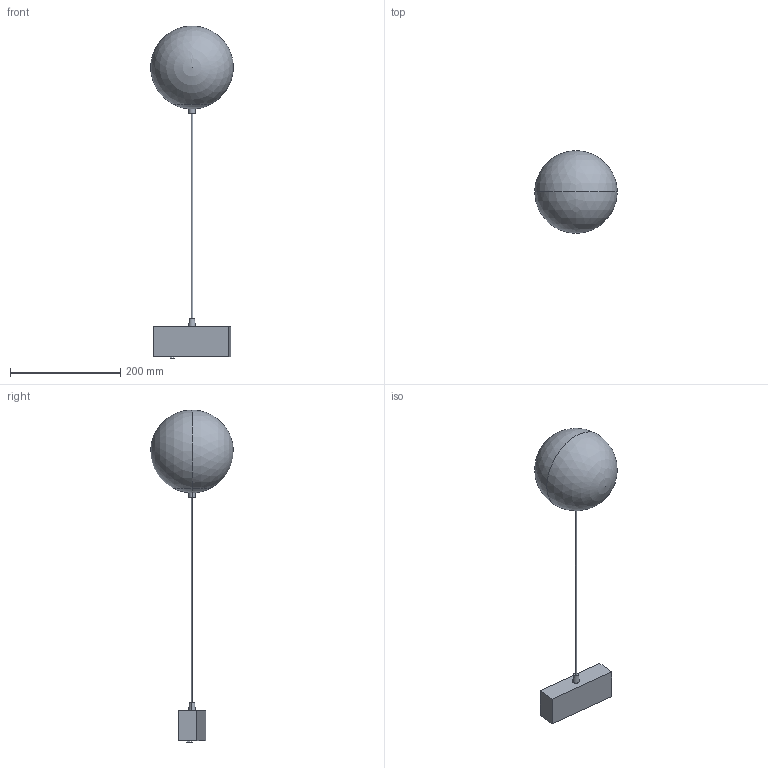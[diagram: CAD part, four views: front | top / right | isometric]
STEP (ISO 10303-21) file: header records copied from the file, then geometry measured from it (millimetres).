
FILE_DESCRIPTION(/* description */ (''),/* implementation_level */ '2;1');
FILE_NAME(/* name */ 'C:\Users\FrancoSartori\Documents\FARO\01_En Proceso\0000_2022\000_PRO\00_NESO\01_RFA_3D_Trabajo\UNIK_PENDANT.stp',/* time_stamp */ '2022-07-19T14:22:48+02:00',/* author */ ('FrancoSartori'),/* organization */ (''),/* preprocessor_version */ 'ST-DEVELOPER v19',/* originating_system */ 'AutoCAD Mechanical',/* authorisation */ '');
FILE_SCHEMA (('AUTOMOTIVE_DESIGN { 1 0 10303 214 3 1 1 }'));
Length unit declared in the file: millimetre
Products named in the file (3): Product; UNIK_BASE_ - SP-469614-Export; UNIK_L - LAMP-469615-Export
Assembly tree (2 placements, depth 2):
  Product
    UNIK_BASE_ - SP-469614-Export
    UNIK_L - LAMP-469615-Export
Bounding box: 150 x 150 x 602 mm (x, y, z)
Volume: 2030051.7 mm3; surface area: 113617.2 mm2
Topology: 10 solids, 10 shells, 90 faces, 185 edges, 119 vertices
Faces by surface type: plane 46, cylinder 34, sphere 6, cone 4
Entity records: 2614 total; most frequent: CARTESIAN_POINT 571, DIRECTION 449, ORIENTED_EDGE 366, EDGE_CURVE 183, AXIS2_PLACEMENT_3D 174, VERTEX_POINT 119, LINE 101, VECTOR 101
